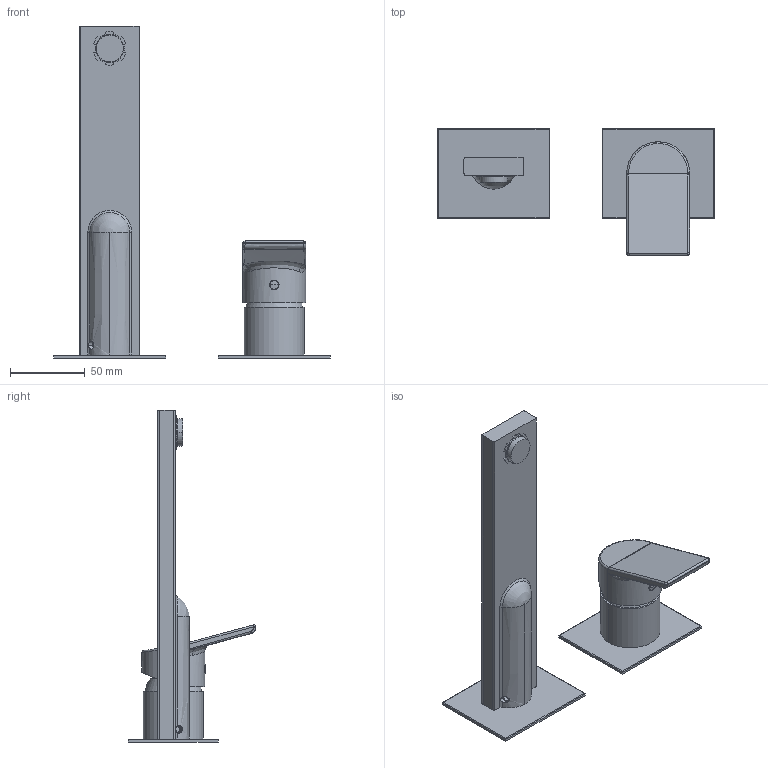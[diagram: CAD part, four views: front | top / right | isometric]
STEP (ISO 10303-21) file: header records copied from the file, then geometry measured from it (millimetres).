
FILE_DESCRIPTION((''),'2;1');
FILE_NAME('74547A_SW0001','2025-07-08T16:36:13',('carloff'),(''),'CREO PARAMETRIC BY PTC INC, 2022014','CREO PARAMETRIC BY PTC INC, 2022014','');
FILE_SCHEMA(('CONFIG_CONTROL_DESIGN'));
Length unit declared in the file: millimetre
Products named in the file (1): 74547A_SW0001
Bounding box: 185 x 85 x 222 mm (x, y, z)
Volume: 198357.9 mm3; surface area: 75121.4 mm2
Topology: 3 solids, 3 shells, 298 faces, 739 edges, 455 vertices
Faces by surface type: plane 102, cylinder 101, bspline 43, cone 35, torus 14, sphere 3
Entity records: 15424 total; most frequent: CARTESIAN_POINT 8751, ORIENTED_EDGE 1464, DIRECTION 1256, EDGE_CURVE 732, AXIS2_PLACEMENT_3D 471, VERTEX_POINT 455, EDGE_LOOP 319, VECTOR 314
